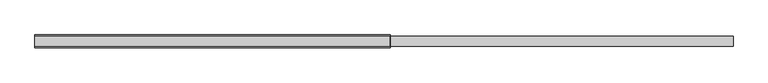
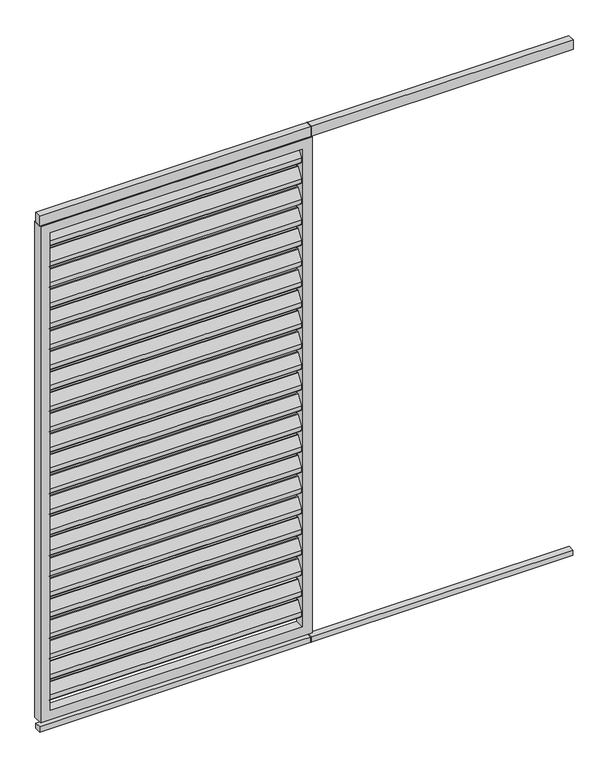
"""IFC4 building model written with IfcOpenShell, lengths in millimetres: proxy geometry, Renson_Camargue_Loggia_Paro_Aluminium : Renson_Camargue_Loggia_Paro_Aluminium."""

from ifc_helpers import new_model, si_unit, point, frame, frame_2d, origin, origin_with_axes, place, context, project, spatial, polyline, circle_curve, trimmed, segment, composite_curve, outline, extrude, source, transform, mapped, element, save


def generic_models_04effbe2(model_context):
    return source(origin(), model_context, "Body", "SweptSolid", [
        extrude(outline(composite_curve([segment(trimmed(circle_curve(frame_2d((12.6675921, 2162.6587719)), 3.0), [point((10.1515804, 2164.292689))], [point((15.6675921, 2162.6587719))], False, "CARTESIAN"), True, "CONTINUOUS"), segment(polyline([(15.6675921, 2162.6587719), (15.6675921, 2144.2979873)]), True, "CONTINUOUS"), segment(trimmed(circle_curve(frame_2d((12.6675921, 2144.2979873)), 3.0), [point((15.6675921, 2144.2979873))], [point((15.1836038, 2142.6640702))], False, "CARTESIAN"), True, "CONTINUOUS"), segment(polyline([(15.1836038, 2142.6640702), (-8.8163962, 2105.707311)]), True, "CONTINUOUS"), segment(trimmed(circle_curve(frame_2d((-11.3324079, 2107.3412281)), 3.0), [point((-8.8163962, 2105.707311))], [point((-14.3324079, 2107.3412281))], False, "CARTESIAN"), True, "CONTINUOUS"), segment(polyline([(-14.3324079, 2107.3412281), (-14.3324079, 2126.5906532), (10.1515804, 2164.292689)]), True, "CONTINUOUS")], self_intersect=False)), frame((-520.0, 0.0, 0.0), z_axis=(1.0, 0.0, 0.0), x_axis=(0.0, 1.0, 0.0)), (0.0, 0.0, 1.0), 1040.0),
        extrude(outline(composite_curve([segment(trimmed(circle_curve(frame_2d((12.6675921, 2072.6587719)), 3.0), [point((10.1515804, 2074.292689))], [point((15.6675921, 2072.6587719))], False, "CARTESIAN"), True, "CONTINUOUS"), segment(polyline([(15.6675921, 2072.6587719), (15.6675921, 2054.2979873)]), True, "CONTINUOUS"), segment(trimmed(circle_curve(frame_2d((12.6675921, 2054.2979873)), 3.0), [point((15.6675921, 2054.2979873))], [point((15.1836038, 2052.6640702))], False, "CARTESIAN"), True, "CONTINUOUS"), segment(polyline([(15.1836038, 2052.6640702), (-8.8163962, 2015.707311)]), True, "CONTINUOUS"), segment(trimmed(circle_curve(frame_2d((-11.3324079, 2017.3412281)), 3.0), [point((-8.8163962, 2015.707311))], [point((-14.3324079, 2017.3412281))], False, "CARTESIAN"), True, "CONTINUOUS"), segment(polyline([(-14.3324079, 2017.3412281), (-14.3324079, 2036.5906532), (10.1515804, 2074.292689)]), True, "CONTINUOUS")], self_intersect=False)), frame((-520.0, 0.0, 0.0), z_axis=(1.0, 0.0, 0.0), x_axis=(0.0, 1.0, 0.0)), (0.0, 0.0, 1.0), 1040.0),
        extrude(outline(composite_curve([segment(trimmed(circle_curve(frame_2d((12.6675921, 1982.6587719)), 3.0), [point((10.1515804, 1984.292689))], [point((15.6675921, 1982.6587719))], False, "CARTESIAN"), True, "CONTINUOUS"), segment(polyline([(15.6675921, 1982.6587719), (15.6675921, 1964.2979873)]), True, "CONTINUOUS"), segment(trimmed(circle_curve(frame_2d((12.6675921, 1964.2979873)), 3.0), [point((15.6675921, 1964.2979873))], [point((15.1836038, 1962.6640702))], False, "CARTESIAN"), True, "CONTINUOUS"), segment(polyline([(15.1836038, 1962.6640702), (-8.8163962, 1925.707311)]), True, "CONTINUOUS"), segment(trimmed(circle_curve(frame_2d((-11.3324079, 1927.3412281)), 3.0), [point((-8.8163962, 1925.707311))], [point((-14.3324079, 1927.3412281))], False, "CARTESIAN"), True, "CONTINUOUS"), segment(polyline([(-14.3324079, 1927.3412281), (-14.3324079, 1946.5906532), (10.1515804, 1984.292689)]), True, "CONTINUOUS")], self_intersect=False)), frame((-520.0, 0.0, 0.0), z_axis=(1.0, 0.0, 0.0), x_axis=(0.0, 1.0, 0.0)), (0.0, 0.0, 1.0), 1040.0),
        extrude(outline(composite_curve([segment(trimmed(circle_curve(frame_2d((12.6675921, 1892.6587719)), 3.0), [point((10.1515804, 1894.292689))], [point((15.6675921, 1892.6587719))], False, "CARTESIAN"), True, "CONTINUOUS"), segment(polyline([(15.6675921, 1892.6587719), (15.6675921, 1874.2979873)]), True, "CONTINUOUS"), segment(trimmed(circle_curve(frame_2d((12.6675921, 1874.2979873)), 3.0), [point((15.6675921, 1874.2979873))], [point((15.1836038, 1872.6640702))], False, "CARTESIAN"), True, "CONTINUOUS"), segment(polyline([(15.1836038, 1872.6640702), (-8.8163962, 1835.707311)]), True, "CONTINUOUS"), segment(trimmed(circle_curve(frame_2d((-11.3324079, 1837.3412281)), 3.0), [point((-8.8163962, 1835.707311))], [point((-14.3324079, 1837.3412281))], False, "CARTESIAN"), True, "CONTINUOUS"), segment(polyline([(-14.3324079, 1837.3412281), (-14.3324079, 1856.5906532), (10.1515804, 1894.292689)]), True, "CONTINUOUS")], self_intersect=False)), frame((-520.0, 0.0, 0.0), z_axis=(1.0, 0.0, 0.0), x_axis=(0.0, 1.0, 0.0)), (0.0, 0.0, 1.0), 1040.0),
        extrude(outline(composite_curve([segment(trimmed(circle_curve(frame_2d((12.6675921, 1802.6587719)), 3.0), [point((10.1515804, 1804.292689))], [point((15.6675921, 1802.6587719))], False, "CARTESIAN"), True, "CONTINUOUS"), segment(polyline([(15.6675921, 1802.6587719), (15.6675921, 1784.2979873)]), True, "CONTINUOUS"), segment(trimmed(circle_curve(frame_2d((12.6675921, 1784.2979873)), 3.0), [point((15.6675921, 1784.2979873))], [point((15.1836038, 1782.6640702))], False, "CARTESIAN"), True, "CONTINUOUS"), segment(polyline([(15.1836038, 1782.6640702), (-8.8163962, 1745.707311)]), True, "CONTINUOUS"), segment(trimmed(circle_curve(frame_2d((-11.3324079, 1747.3412281)), 3.0), [point((-8.8163962, 1745.707311))], [point((-14.3324079, 1747.3412281))], False, "CARTESIAN"), True, "CONTINUOUS"), segment(polyline([(-14.3324079, 1747.3412281), (-14.3324079, 1766.5906532), (10.1515804, 1804.292689)]), True, "CONTINUOUS")], self_intersect=False)), frame((-520.0, 0.0, 0.0), z_axis=(1.0, 0.0, 0.0), x_axis=(0.0, 1.0, 0.0)), (0.0, 0.0, 1.0), 1040.0),
        extrude(outline(composite_curve([segment(trimmed(circle_curve(frame_2d((12.6675921, 1712.6587719)), 3.0), [point((10.1515804, 1714.292689))], [point((15.6675921, 1712.6587719))], False, "CARTESIAN"), True, "CONTINUOUS"), segment(polyline([(15.6675921, 1712.6587719), (15.6675921, 1694.2979873)]), True, "CONTINUOUS"), segment(trimmed(circle_curve(frame_2d((12.6675921, 1694.2979873)), 3.0), [point((15.6675921, 1694.2979873))], [point((15.1836038, 1692.6640702))], False, "CARTESIAN"), True, "CONTINUOUS"), segment(polyline([(15.1836038, 1692.6640702), (-8.8163962, 1655.707311)]), True, "CONTINUOUS"), segment(trimmed(circle_curve(frame_2d((-11.3324079, 1657.3412281)), 3.0), [point((-8.8163962, 1655.707311))], [point((-14.3324079, 1657.3412281))], False, "CARTESIAN"), True, "CONTINUOUS"), segment(polyline([(-14.3324079, 1657.3412281), (-14.3324079, 1676.5906532), (10.1515804, 1714.292689)]), True, "CONTINUOUS")], self_intersect=False)), frame((-520.0, 0.0, 0.0), z_axis=(1.0, 0.0, 0.0), x_axis=(0.0, 1.0, 0.0)), (0.0, 0.0, 1.0), 1040.0),
        extrude(outline(composite_curve([segment(trimmed(circle_curve(frame_2d((12.6675921, 1622.6587719)), 3.0), [point((10.1515804, 1624.292689))], [point((15.6675921, 1622.6587719))], False, "CARTESIAN"), True, "CONTINUOUS"), segment(polyline([(15.6675921, 1622.6587719), (15.6675921, 1604.2979873)]), True, "CONTINUOUS"), segment(trimmed(circle_curve(frame_2d((12.6675921, 1604.2979873)), 3.0), [point((15.6675921, 1604.2979873))], [point((15.1836038, 1602.6640702))], False, "CARTESIAN"), True, "CONTINUOUS"), segment(polyline([(15.1836038, 1602.6640702), (-8.8163962, 1565.707311)]), True, "CONTINUOUS"), segment(trimmed(circle_curve(frame_2d((-11.3324079, 1567.3412281)), 3.0), [point((-8.8163962, 1565.707311))], [point((-14.3324079, 1567.3412281))], False, "CARTESIAN"), True, "CONTINUOUS"), segment(polyline([(-14.3324079, 1567.3412281), (-14.3324079, 1586.5906532), (10.1515804, 1624.292689)]), True, "CONTINUOUS")], self_intersect=False)), frame((-520.0, 0.0, 0.0), z_axis=(1.0, 0.0, 0.0), x_axis=(0.0, 1.0, 0.0)), (0.0, 0.0, 1.0), 1040.0),
        extrude(outline(composite_curve([segment(trimmed(circle_curve(frame_2d((12.6675921, 1532.6587719)), 3.0), [point((10.1515804, 1534.292689))], [point((15.6675921, 1532.6587719))], False, "CARTESIAN"), True, "CONTINUOUS"), segment(polyline([(15.6675921, 1532.6587719), (15.6675921, 1514.2979873)]), True, "CONTINUOUS"), segment(trimmed(circle_curve(frame_2d((12.6675921, 1514.2979873)), 3.0), [point((15.6675921, 1514.2979873))], [point((15.1836038, 1512.6640702))], False, "CARTESIAN"), True, "CONTINUOUS"), segment(polyline([(15.1836038, 1512.6640702), (-8.8163962, 1475.707311)]), True, "CONTINUOUS"), segment(trimmed(circle_curve(frame_2d((-11.3324079, 1477.3412281)), 3.0), [point((-8.8163962, 1475.707311))], [point((-14.3324079, 1477.3412281))], False, "CARTESIAN"), True, "CONTINUOUS"), segment(polyline([(-14.3324079, 1477.3412281), (-14.3324079, 1496.5906532), (10.1515804, 1534.292689)]), True, "CONTINUOUS")], self_intersect=False)), frame((-520.0, 0.0, 0.0), z_axis=(1.0, 0.0, 0.0), x_axis=(0.0, 1.0, 0.0)), (0.0, 0.0, 1.0), 1040.0),
        extrude(outline(composite_curve([segment(trimmed(circle_curve(frame_2d((12.6675921, 1442.6587719)), 3.0), [point((10.1515804, 1444.292689))], [point((15.6675921, 1442.6587719))], False, "CARTESIAN"), True, "CONTINUOUS"), segment(polyline([(15.6675921, 1442.6587719), (15.6675921, 1424.2979873)]), True, "CONTINUOUS"), segment(trimmed(circle_curve(frame_2d((12.6675921, 1424.2979873)), 3.0), [point((15.6675921, 1424.2979873))], [point((15.1836038, 1422.6640702))], False, "CARTESIAN"), True, "CONTINUOUS"), segment(polyline([(15.1836038, 1422.6640702), (-8.8163962, 1385.707311)]), True, "CONTINUOUS"), segment(trimmed(circle_curve(frame_2d((-11.3324079, 1387.3412281)), 3.0), [point((-8.8163962, 1385.707311))], [point((-14.3324079, 1387.3412281))], False, "CARTESIAN"), True, "CONTINUOUS"), segment(polyline([(-14.3324079, 1387.3412281), (-14.3324079, 1406.5906532), (10.1515804, 1444.292689)]), True, "CONTINUOUS")], self_intersect=False)), frame((-520.0, 0.0, 0.0), z_axis=(1.0, 0.0, 0.0), x_axis=(0.0, 1.0, 0.0)), (0.0, 0.0, 1.0), 1040.0),
        extrude(outline(composite_curve([segment(trimmed(circle_curve(frame_2d((12.6675921, 1352.6587719)), 3.0), [point((10.1515804, 1354.292689))], [point((15.6675921, 1352.6587719))], False, "CARTESIAN"), True, "CONTINUOUS"), segment(polyline([(15.6675921, 1352.6587719), (15.6675921, 1334.2979873)]), True, "CONTINUOUS"), segment(trimmed(circle_curve(frame_2d((12.6675921, 1334.2979873)), 3.0), [point((15.6675921, 1334.2979873))], [point((15.1836038, 1332.6640702))], False, "CARTESIAN"), True, "CONTINUOUS"), segment(polyline([(15.1836038, 1332.6640702), (-8.8163962, 1295.707311)]), True, "CONTINUOUS"), segment(trimmed(circle_curve(frame_2d((-11.3324079, 1297.3412281)), 3.0), [point((-8.8163962, 1295.707311))], [point((-14.3324079, 1297.3412281))], False, "CARTESIAN"), True, "CONTINUOUS"), segment(polyline([(-14.3324079, 1297.3412281), (-14.3324079, 1316.5906532), (10.1515804, 1354.292689)]), True, "CONTINUOUS")], self_intersect=False)), frame((-520.0, 0.0, 0.0), z_axis=(1.0, 0.0, 0.0), x_axis=(0.0, 1.0, 0.0)), (0.0, 0.0, 1.0), 1040.0),
        extrude(outline(composite_curve([segment(trimmed(circle_curve(frame_2d((12.6675921, 1262.6587719)), 3.0), [point((10.1515804, 1264.292689))], [point((15.6675921, 1262.6587719))], False, "CARTESIAN"), True, "CONTINUOUS"), segment(polyline([(15.6675921, 1262.6587719), (15.6675921, 1244.2979873)]), True, "CONTINUOUS"), segment(trimmed(circle_curve(frame_2d((12.6675921, 1244.2979873)), 3.0), [point((15.6675921, 1244.2979873))], [point((15.1836038, 1242.6640702))], False, "CARTESIAN"), True, "CONTINUOUS"), segment(polyline([(15.1836038, 1242.6640702), (-8.8163962, 1205.707311)]), True, "CONTINUOUS"), segment(trimmed(circle_curve(frame_2d((-11.3324079, 1207.3412281)), 3.0), [point((-8.8163962, 1205.707311))], [point((-14.3324079, 1207.3412281))], False, "CARTESIAN"), True, "CONTINUOUS"), segment(polyline([(-14.3324079, 1207.3412281), (-14.3324079, 1226.5906532), (10.1515804, 1264.292689)]), True, "CONTINUOUS")], self_intersect=False)), frame((-520.0, 0.0, 0.0), z_axis=(1.0, 0.0, 0.0), x_axis=(0.0, 1.0, 0.0)), (0.0, 0.0, 1.0), 1040.0),
        extrude(outline(composite_curve([segment(trimmed(circle_curve(frame_2d((12.6675921, 1172.6587719)), 3.0), [point((10.1515804, 1174.292689))], [point((15.6675921, 1172.6587719))], False, "CARTESIAN"), True, "CONTINUOUS"), segment(polyline([(15.6675921, 1172.6587719), (15.6675921, 1154.2979873)]), True, "CONTINUOUS"), segment(trimmed(circle_curve(frame_2d((12.6675921, 1154.2979873)), 3.0), [point((15.6675921, 1154.2979873))], [point((15.1836038, 1152.6640702))], False, "CARTESIAN"), True, "CONTINUOUS"), segment(polyline([(15.1836038, 1152.6640702), (-8.8163962, 1115.707311)]), True, "CONTINUOUS"), segment(trimmed(circle_curve(frame_2d((-11.3324079, 1117.3412281)), 3.0), [point((-8.8163962, 1115.707311))], [point((-14.3324079, 1117.3412281))], False, "CARTESIAN"), True, "CONTINUOUS"), segment(polyline([(-14.3324079, 1117.3412281), (-14.3324079, 1136.5906532), (10.1515804, 1174.292689)]), True, "CONTINUOUS")], self_intersect=False)), frame((-520.0, 0.0, 0.0), z_axis=(1.0, 0.0, 0.0), x_axis=(0.0, 1.0, 0.0)), (0.0, 0.0, 1.0), 1040.0),
        extrude(outline(composite_curve([segment(trimmed(circle_curve(frame_2d((12.6675921, 1082.6587719)), 3.0), [point((10.1515804, 1084.292689))], [point((15.6675921, 1082.6587719))], False, "CARTESIAN"), True, "CONTINUOUS"), segment(polyline([(15.6675921, 1082.6587719), (15.6675921, 1064.2979873)]), True, "CONTINUOUS"), segment(trimmed(circle_curve(frame_2d((12.6675921, 1064.2979873)), 3.0), [point((15.6675921, 1064.2979873))], [point((15.1836038, 1062.6640702))], False, "CARTESIAN"), True, "CONTINUOUS"), segment(polyline([(15.1836038, 1062.6640702), (-8.8163962, 1025.707311)]), True, "CONTINUOUS"), segment(trimmed(circle_curve(frame_2d((-11.3324079, 1027.3412281)), 3.0), [point((-8.8163962, 1025.707311))], [point((-14.3324079, 1027.3412281))], False, "CARTESIAN"), True, "CONTINUOUS"), segment(polyline([(-14.3324079, 1027.3412281), (-14.3324079, 1046.5906532), (10.1515804, 1084.292689)]), True, "CONTINUOUS")], self_intersect=False)), frame((-520.0, 0.0, 0.0), z_axis=(1.0, 0.0, 0.0), x_axis=(0.0, 1.0, 0.0)), (0.0, 0.0, 1.0), 1040.0),
        extrude(outline(composite_curve([segment(trimmed(circle_curve(frame_2d((12.6675921, 992.6587719)), 3.0), [point((10.1515804, 994.292689))], [point((15.6675921, 992.6587719))], False, "CARTESIAN"), True, "CONTINUOUS"), segment(polyline([(15.6675921, 992.6587719), (15.6675921, 974.2979873)]), True, "CONTINUOUS"), segment(trimmed(circle_curve(frame_2d((12.6675921, 974.2979873)), 3.0), [point((15.6675921, 974.2979873))], [point((15.1836038, 972.6640702))], False, "CARTESIAN"), True, "CONTINUOUS"), segment(polyline([(15.1836038, 972.6640702), (-8.8163962, 935.707311)]), True, "CONTINUOUS"), segment(trimmed(circle_curve(frame_2d((-11.3324079, 937.3412281)), 3.0), [point((-8.8163962, 935.707311))], [point((-14.3324079, 937.3412281))], False, "CARTESIAN"), True, "CONTINUOUS"), segment(polyline([(-14.3324079, 937.3412281), (-14.3324079, 956.5906532), (10.1515804, 994.292689)]), True, "CONTINUOUS")], self_intersect=False)), frame((-520.0, 0.0, 0.0), z_axis=(1.0, 0.0, 0.0), x_axis=(0.0, 1.0, 0.0)), (0.0, 0.0, 1.0), 1040.0),
        extrude(outline(composite_curve([segment(trimmed(circle_curve(frame_2d((12.6675921, 902.6587719)), 3.0), [point((10.1515804, 904.292689))], [point((15.6675921, 902.6587719))], False, "CARTESIAN"), True, "CONTINUOUS"), segment(polyline([(15.6675921, 902.6587719), (15.6675921, 884.2979873)]), True, "CONTINUOUS"), segment(trimmed(circle_curve(frame_2d((12.6675921, 884.2979873)), 3.0), [point((15.6675921, 884.2979873))], [point((15.1836038, 882.6640702))], False, "CARTESIAN"), True, "CONTINUOUS"), segment(polyline([(15.1836038, 882.6640702), (-8.8163962, 845.707311)]), True, "CONTINUOUS"), segment(trimmed(circle_curve(frame_2d((-11.3324079, 847.3412281)), 3.0), [point((-8.8163962, 845.707311))], [point((-14.3324079, 847.3412281))], False, "CARTESIAN"), True, "CONTINUOUS"), segment(polyline([(-14.3324079, 847.3412281), (-14.3324079, 866.5906532), (10.1515804, 904.292689)]), True, "CONTINUOUS")], self_intersect=False)), frame((-520.0, 0.0, 0.0), z_axis=(1.0, 0.0, 0.0), x_axis=(0.0, 1.0, 0.0)), (0.0, 0.0, 1.0), 1040.0),
        extrude(outline(composite_curve([segment(trimmed(circle_curve(frame_2d((12.6675921, 812.6587719)), 3.0), [point((10.1515804, 814.292689))], [point((15.6675921, 812.6587719))], False, "CARTESIAN"), True, "CONTINUOUS"), segment(polyline([(15.6675921, 812.6587719), (15.6675921, 794.2979873)]), True, "CONTINUOUS"), segment(trimmed(circle_curve(frame_2d((12.6675921, 794.2979873)), 3.0), [point((15.6675921, 794.2979873))], [point((15.1836038, 792.6640702))], False, "CARTESIAN"), True, "CONTINUOUS"), segment(polyline([(15.1836038, 792.6640702), (-8.8163962, 755.707311)]), True, "CONTINUOUS"), segment(trimmed(circle_curve(frame_2d((-11.3324079, 757.3412281)), 3.0), [point((-8.8163962, 755.707311))], [point((-14.3324079, 757.3412281))], False, "CARTESIAN"), True, "CONTINUOUS"), segment(polyline([(-14.3324079, 757.3412281), (-14.3324079, 776.5906532), (10.1515804, 814.292689)]), True, "CONTINUOUS")], self_intersect=False)), frame((-520.0, 0.0, 0.0), z_axis=(1.0, 0.0, 0.0), x_axis=(0.0, 1.0, 0.0)), (0.0, 0.0, 1.0), 1040.0),
        extrude(outline(composite_curve([segment(trimmed(circle_curve(frame_2d((12.6675921, 722.6587719)), 3.0), [point((10.1515804, 724.292689))], [point((15.6675921, 722.6587719))], False, "CARTESIAN"), True, "CONTINUOUS"), segment(polyline([(15.6675921, 722.6587719), (15.6675921, 704.2979873)]), True, "CONTINUOUS"), segment(trimmed(circle_curve(frame_2d((12.6675921, 704.2979873)), 3.0), [point((15.6675921, 704.2979873))], [point((15.1836038, 702.6640702))], False, "CARTESIAN"), True, "CONTINUOUS"), segment(polyline([(15.1836038, 702.6640702), (-8.8163962, 665.707311)]), True, "CONTINUOUS"), segment(trimmed(circle_curve(frame_2d((-11.3324079, 667.3412281)), 3.0), [point((-8.8163962, 665.707311))], [point((-14.3324079, 667.3412281))], False, "CARTESIAN"), True, "CONTINUOUS"), segment(polyline([(-14.3324079, 667.3412281), (-14.3324079, 686.5906532), (10.1515804, 724.292689)]), True, "CONTINUOUS")], self_intersect=False)), frame((-520.0, 0.0, 0.0), z_axis=(1.0, 0.0, 0.0), x_axis=(0.0, 1.0, 0.0)), (0.0, 0.0, 1.0), 1040.0),
        extrude(outline(composite_curve([segment(trimmed(circle_curve(frame_2d((12.6675921, 632.6587719)), 3.0), [point((10.1515804, 634.292689))], [point((15.6675921, 632.6587719))], False, "CARTESIAN"), True, "CONTINUOUS"), segment(polyline([(15.6675921, 632.6587719), (15.6675921, 614.2979873)]), True, "CONTINUOUS"), segment(trimmed(circle_curve(frame_2d((12.6675921, 614.2979873)), 3.0), [point((15.6675921, 614.2979873))], [point((15.1836038, 612.6640702))], False, "CARTESIAN"), True, "CONTINUOUS"), segment(polyline([(15.1836038, 612.6640702), (-8.8163962, 575.707311)]), True, "CONTINUOUS"), segment(trimmed(circle_curve(frame_2d((-11.3324079, 577.3412281)), 3.0), [point((-8.8163962, 575.707311))], [point((-14.3324079, 577.3412281))], False, "CARTESIAN"), True, "CONTINUOUS"), segment(polyline([(-14.3324079, 577.3412281), (-14.3324079, 596.5906532), (10.1515804, 634.292689)]), True, "CONTINUOUS")], self_intersect=False)), frame((-520.0, 0.0, 0.0), z_axis=(1.0, 0.0, 0.0), x_axis=(0.0, 1.0, 0.0)), (0.0, 0.0, 1.0), 1040.0),
        extrude(outline(composite_curve([segment(trimmed(circle_curve(frame_2d((12.6675921, 542.6587719)), 3.0), [point((10.1515804, 544.292689))], [point((15.6675921, 542.6587719))], False, "CARTESIAN"), True, "CONTINUOUS"), segment(polyline([(15.6675921, 542.6587719), (15.6675921, 524.2979873)]), True, "CONTINUOUS"), segment(trimmed(circle_curve(frame_2d((12.6675921, 524.2979873)), 3.0), [point((15.6675921, 524.2979873))], [point((15.1836038, 522.6640702))], False, "CARTESIAN"), True, "CONTINUOUS"), segment(polyline([(15.1836038, 522.6640702), (-8.8163962, 485.707311)]), True, "CONTINUOUS"), segment(trimmed(circle_curve(frame_2d((-11.3324079, 487.3412281)), 3.0), [point((-8.8163962, 485.707311))], [point((-14.3324079, 487.3412281))], False, "CARTESIAN"), True, "CONTINUOUS"), segment(polyline([(-14.3324079, 487.3412281), (-14.3324079, 506.5906532), (10.1515804, 544.292689)]), True, "CONTINUOUS")], self_intersect=False)), frame((-520.0, 0.0, 0.0), z_axis=(1.0, 0.0, 0.0), x_axis=(0.0, 1.0, 0.0)), (0.0, 0.0, 1.0), 1040.0),
        extrude(outline(composite_curve([segment(trimmed(circle_curve(frame_2d((12.6675921, 452.6587719)), 3.0), [point((10.1515804, 454.292689))], [point((15.6675921, 452.6587719))], False, "CARTESIAN"), True, "CONTINUOUS"), segment(polyline([(15.6675921, 452.6587719), (15.6675921, 434.2979873)]), True, "CONTINUOUS"), segment(trimmed(circle_curve(frame_2d((12.6675921, 434.2979873)), 3.0), [point((15.6675921, 434.2979873))], [point((15.1836038, 432.6640702))], False, "CARTESIAN"), True, "CONTINUOUS"), segment(polyline([(15.1836038, 432.6640702), (-8.8163962, 395.707311)]), True, "CONTINUOUS"), segment(trimmed(circle_curve(frame_2d((-11.3324079, 397.3412281)), 3.0), [point((-8.8163962, 395.707311))], [point((-14.3324079, 397.3412281))], False, "CARTESIAN"), True, "CONTINUOUS"), segment(polyline([(-14.3324079, 397.3412281), (-14.3324079, 416.5906532), (10.1515804, 454.292689)]), True, "CONTINUOUS")], self_intersect=False)), frame((-520.0, 0.0, 0.0), z_axis=(1.0, 0.0, 0.0), x_axis=(0.0, 1.0, 0.0)), (0.0, 0.0, 1.0), 1040.0),
        extrude(outline(composite_curve([segment(trimmed(circle_curve(frame_2d((12.6675921, 362.6587719)), 3.0), [point((10.1515804, 364.292689))], [point((15.6675921, 362.6587719))], False, "CARTESIAN"), True, "CONTINUOUS"), segment(polyline([(15.6675921, 362.6587719), (15.6675921, 344.2979873)]), True, "CONTINUOUS"), segment(trimmed(circle_curve(frame_2d((12.6675921, 344.2979873)), 3.0), [point((15.6675921, 344.2979873))], [point((15.1836038, 342.6640702))], False, "CARTESIAN"), True, "CONTINUOUS"), segment(polyline([(15.1836038, 342.6640702), (-8.8163962, 305.707311)]), True, "CONTINUOUS"), segment(trimmed(circle_curve(frame_2d((-11.3324079, 307.3412281)), 3.0), [point((-8.8163962, 305.707311))], [point((-14.3324079, 307.3412281))], False, "CARTESIAN"), True, "CONTINUOUS"), segment(polyline([(-14.3324079, 307.3412281), (-14.3324079, 326.5906532), (10.1515804, 364.292689)]), True, "CONTINUOUS")], self_intersect=False)), frame((-520.0, 0.0, 0.0), z_axis=(1.0, 0.0, 0.0), x_axis=(0.0, 1.0, 0.0)), (0.0, 0.0, 1.0), 1040.0),
        extrude(outline(composite_curve([segment(trimmed(circle_curve(frame_2d((12.6675921, 272.6587719)), 3.0), [point((10.1515804, 274.292689))], [point((15.6675921, 272.6587719))], False, "CARTESIAN"), True, "CONTINUOUS"), segment(polyline([(15.6675921, 272.6587719), (15.6675921, 254.2979873)]), True, "CONTINUOUS"), segment(trimmed(circle_curve(frame_2d((12.6675921, 254.2979873)), 3.0), [point((15.6675921, 254.2979873))], [point((15.1836038, 252.6640702))], False, "CARTESIAN"), True, "CONTINUOUS"), segment(polyline([(15.1836038, 252.6640702), (-8.8163962, 215.707311)]), True, "CONTINUOUS"), segment(trimmed(circle_curve(frame_2d((-11.3324079, 217.3412281)), 3.0), [point((-8.8163962, 215.707311))], [point((-14.3324079, 217.3412281))], False, "CARTESIAN"), True, "CONTINUOUS"), segment(polyline([(-14.3324079, 217.3412281), (-14.3324079, 236.5906532), (10.1515804, 274.292689)]), True, "CONTINUOUS")], self_intersect=False)), frame((-520.0, 0.0, 0.0), z_axis=(1.0, 0.0, 0.0), x_axis=(0.0, 1.0, 0.0)), (0.0, 0.0, 1.0), 1040.0),
        extrude(outline(composite_curve([segment(trimmed(circle_curve(frame_2d((12.6675921, 182.6587719)), 3.0), [point((10.1515804, 184.292689))], [point((15.6675921, 182.6587719))], False, "CARTESIAN"), True, "CONTINUOUS"), segment(polyline([(15.6675921, 182.6587719), (15.6675921, 164.2979873)]), True, "CONTINUOUS"), segment(trimmed(circle_curve(frame_2d((12.6675921, 164.2979873)), 3.0), [point((15.6675921, 164.2979873))], [point((15.1836038, 162.6640702))], False, "CARTESIAN"), True, "CONTINUOUS"), segment(polyline([(15.1836038, 162.6640702), (-8.8163962, 125.707311)]), True, "CONTINUOUS"), segment(trimmed(circle_curve(frame_2d((-11.3324079, 127.3412281)), 3.0), [point((-8.8163962, 125.707311))], [point((-14.3324079, 127.3412281))], False, "CARTESIAN"), True, "CONTINUOUS"), segment(polyline([(-14.3324079, 127.3412281), (-14.3324079, 146.5906532), (10.1515804, 184.292689)]), True, "CONTINUOUS")], self_intersect=False)), frame((-520.0, 0.0, 0.0), z_axis=(1.0, 0.0, 0.0), x_axis=(0.0, 1.0, 0.0)), (0.0, 0.0, 1.0), 1040.0),
        extrude(outline(polyline([(560.0, 15.0), (560.0, -15.0), (559.0, -15.0), (559.0, 15.0), (560.0, 15.0)])), frame((0.0, 0.0, 2207.7138321), z_axis=(0.0, 0.0, 1.0), x_axis=(1.0, 0.0, 0.0)), (0.0, 0.0, 1.0), 42.2861679),
        extrude(outline(polyline([(1640.0, 15.0), (1640.0, -15.0), (-560.0, -15.0), (-560.0, 15.0), (1640.0, 15.0)])), frame((0.0, 0.0, 2207.7138321), z_axis=(0.0, 0.0, 1.0), x_axis=(1.0, 0.0, 0.0)), (0.0, 0.0, 1.0), 42.2861679),
        extrude(outline(polyline([(560.0, -13.0), (559.0, -13.0), (559.0, 14.0), (560.0, 14.0), (560.0, -13.0)])), origin_with_axes(), (0.0, 0.0, 1.0), 23.0),
        extrude(outline(polyline([(1640.0, -13.0), (-560.0, -13.0), (-560.0, 14.0), (1640.0, 14.0), (1640.0, -13.0)])), origin_with_axes(), (0.0, 0.0, 1.0), 23.0),
        extrude(outline(polyline([(2207.7138321, -560.0), (45.0, -560.0), (45.0, 560.0), (2207.7138321, 560.0), (2207.7138321, -560.0)]), holes=[polyline([(2167.7138321, 520.0), (85.0, 520.0), (85.0, -520.0), (2167.7138321, -520.0), (2167.7138321, 520.0)])]), frame((0.0, -20.0, 0.0), z_axis=(0.0, 1.0, 0.0), x_axis=(0.0, 0.0, 1.0)), (0.0, 0.0, 1.0), 40.0),
    ])


if __name__ == "__main__":
    model = new_model("IFC4")
    model_context = context("Model", 3, world=origin())
    ifc_project = project(units=[si_unit("LENGTHUNIT", "METRE", prefix="MILLI")], contexts=[model_context])
    site = spatial("IfcSite", under=ifc_project)
    building = spatial("IfcBuilding", under=site)
    placement = place(None, origin())
    generic_models_shape = generic_models_04effbe2(model_context)
    element("IfcBuildingElementProxy", 1, Name="Renson_Camargue_Loggia_Paro_Aluminium : Renson_Camargue_Loggia_Paro_Aluminium", ObjectType="Renson_Camargue_Loggia_Paro_Aluminium : Renson_Camargue_Loggia_Paro_Aluminium", at=placement, inside=building, context=model_context, shape_type="MappedRepresentation", body=[
        mapped(generic_models_shape, transform((0.0, 0.0, 0.0), x_axis=(1.0, 0.0, 0.0), y_axis=(0.0, 1.0, 0.0), z_axis=(0.0, 0.0, 1.0))),
    ])
    save(model, "model.ifc")
